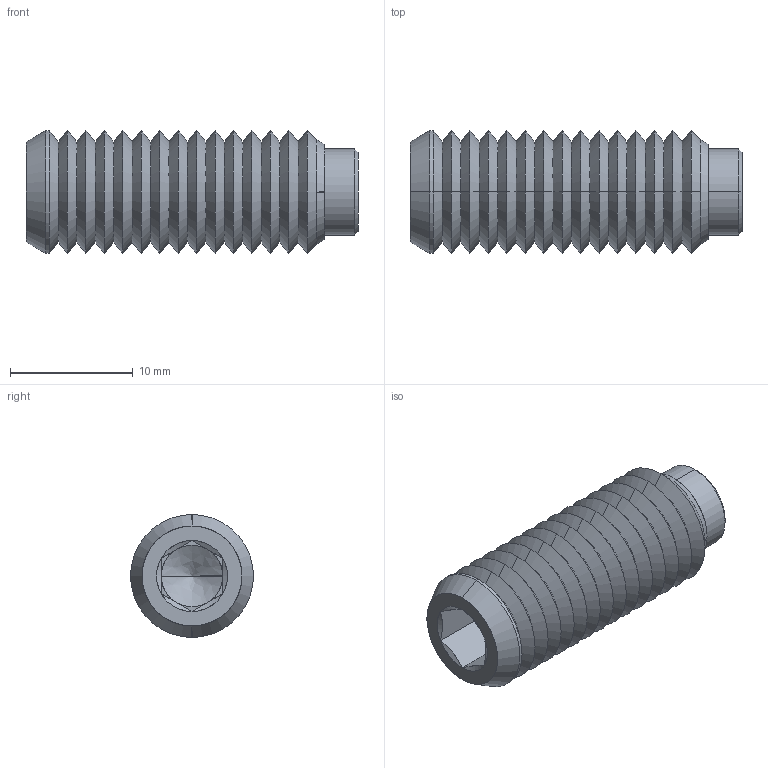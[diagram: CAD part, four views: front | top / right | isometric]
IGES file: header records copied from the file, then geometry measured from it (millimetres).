
Start section: SolidWorks IGES file using analytic representation for surfaces
Global section: file name: C:\Users\IanO\Desktop\P0120_v2_230406\P0120_v2_20230506_IGES\P0120.100-027.igs; native system: SolidWorks 2019; preprocessor: SolidWorks 2019; author: IanO; date: 230406.142522; units: millimetre
Bounding box: 27 x 10 x 10 mm (x, y, z)
Surface area: 1506.5 mm2 (no closed solid volume)
Topology: 0 solids, 0 shells, 95 faces, 638 edges, 636 vertices
Faces by surface type: revolution 78, bspline 17
